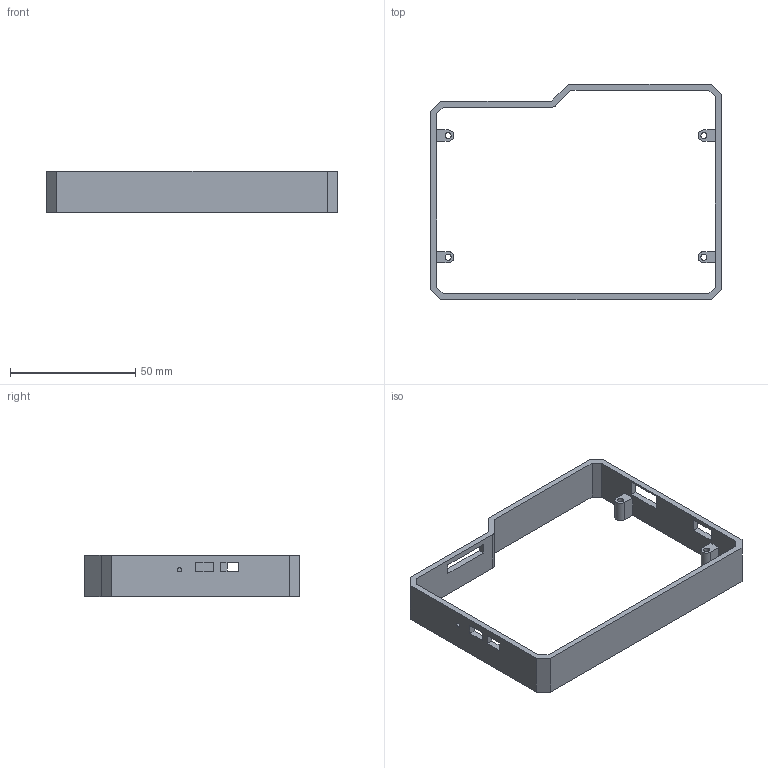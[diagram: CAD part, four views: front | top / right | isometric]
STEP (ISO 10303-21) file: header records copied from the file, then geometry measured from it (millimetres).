
FILE_DESCRIPTION(('Open CASCADE Model'),'2;1');
FILE_NAME('Stepped perimeter frame','2026-11-18T13:29:45',('Author'),( 'Open CASCADE'),'Open CASCADE STEP processor 7.8','build123d', 'Unknown');
FILE_SCHEMA(('AUTOMOTIVE_DESIGN { 1 0 10303 214 1 1 1 1 }'));
Length unit declared in the file: millimetre
Products named in the file (1): Stepped perimeter frame
Bounding box: 116 x 86 x 16.5 mm (x, y, z)
Volume: 15314.7 mm3; surface area: 15166.6 mm2
Topology: 1 solids, 1 shells, 64 faces, 186 edges, 124 vertices
Faces by surface type: plane 54, cylinder 10
Full cylindrical faces by diameter (mm): 1.8 x1, 2.4 x4
Entity records: 4479 total; most frequent: CARTESIAN_POINT 875, DIRECTION 600, LINE 414, VECTOR 414, ORIENTED_EDGE 372, PCURVE 372, DEFINITIONAL_REPRESENTATION 372, EDGE_CURVE 186
